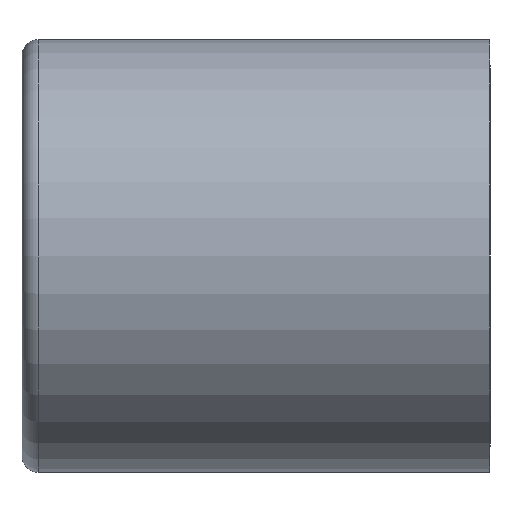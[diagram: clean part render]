
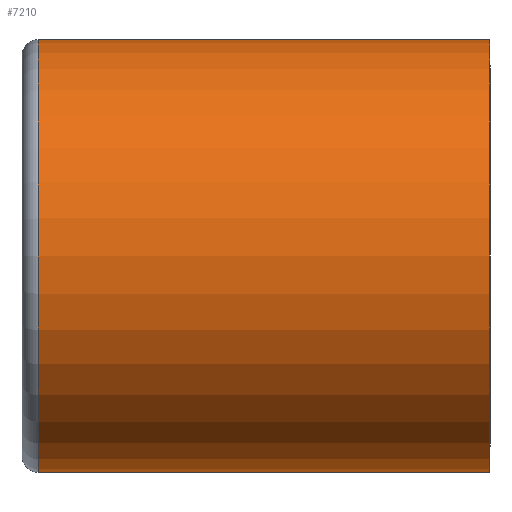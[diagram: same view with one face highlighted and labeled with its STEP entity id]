
A CAD part, front view. The second image highlights one B-rep face of the part: STEP entity #7210.
In plain terms, the highlighted cylindrical face has radius 18.5 mm (diameter 37 mm), a partial arc.
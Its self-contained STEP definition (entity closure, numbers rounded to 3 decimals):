
#130 = DIRECTION ( 'NONE',  ( 0., 0., 1. ) ) ;
#140 = CARTESIAN_POINT ( 'NONE',  ( 0., 0., 0. ) ) ;
#153 = DIRECTION ( 'NONE',  ( -1., 0., 0. ) ) ;
#616 = CARTESIAN_POINT ( 'NONE',  ( 1.4, 0., 18.5 ) ) ;
#797 = CARTESIAN_POINT ( 'NONE',  ( 40., 0., 18.5 ) ) ;
#823 = CARTESIAN_POINT ( 'NONE',  ( 40., 0., -18.5 ) ) ;
#940 = CARTESIAN_POINT ( 'NONE',  ( 1.4, 0., -18.5 ) ) ;
#1493 = VERTEX_POINT ( 'NONE', #940 ) ;
#1801 = VERTEX_POINT ( 'NONE', #823 ) ;
#1821 = VERTEX_POINT ( 'NONE', #797 ) ;
#1948 = VERTEX_POINT ( 'NONE', #616 ) ;
#2259 = FACE_OUTER_BOUND ( 'NONE', #6765, .T. ) ;
#2320 = CYLINDRICAL_SURFACE ( 'NONE', #11030, 18.5 ) ;
#3813 = CARTESIAN_POINT ( 'NONE',  ( 0., 0., -18.5 ) ) ;
#3814 = DIRECTION ( 'NONE',  ( -1., 0., 0. ) ) ;
#4577 = CARTESIAN_POINT ( 'NONE',  ( 40., 0., 0. ) ) ;
#4579 = DIRECTION ( 'NONE',  ( -1., 0., 0. ) ) ;
#4580 = DIRECTION ( 'NONE',  ( 0., 0., 1. ) ) ;
#4990 = CARTESIAN_POINT ( 'NONE',  ( 1.4, 0., 0. ) ) ;
#4992 = DIRECTION ( 'NONE',  ( 1., 0., 0. ) ) ;
#4994 = DIRECTION ( 'NONE',  ( 0., 0., -1. ) ) ;
#5598 = AXIS2_PLACEMENT_3D ( 'NONE', #4990, #4992, #4994 ) ;
#5656 = AXIS2_PLACEMENT_3D ( 'NONE', #4577, #4579, #4580 ) ;
#6708 = ORIENTED_EDGE ( 'NONE', *, *, #11198, .T. ) ;
#6709 = ORIENTED_EDGE ( 'NONE', *, *, #11456, .T. ) ;
#6710 = ORIENTED_EDGE ( 'NONE', *, *, #11161, .T. ) ;
#6711 = ORIENTED_EDGE ( 'NONE', *, *, #11351, .F. ) ;
#6765 = EDGE_LOOP ( 'NONE', ( #6711, #6710, #6709, #6708 ) ) ;
#7210 = ADVANCED_FACE ( 'NONE', ( #2259 ), #2320, .T. ) ;
#8025 = LINE ( 'NONE', #9607, #8033 ) ;
#8033 = VECTOR ( 'NONE', #9606, 1000. ) ;
#8532 = CIRCLE ( 'NONE', #5656, 18.5 ) ;
#8574 = CIRCLE ( 'NONE', #5598, 18.5 ) ;
#8598 = LINE ( 'NONE', #3813, #8816 ) ;
#8816 = VECTOR ( 'NONE', #3814, 1000. ) ;
#9606 = DIRECTION ( 'NONE',  ( -1., 0., 0. ) ) ;
#9607 = CARTESIAN_POINT ( 'NONE',  ( 0., 0., 18.5 ) ) ;
#11030 = AXIS2_PLACEMENT_3D ( 'NONE', #140, #153, #130 ) ;
#11161 = EDGE_CURVE ( 'NONE', #1801, #1821, #8532, .T. ) ;
#11198 = EDGE_CURVE ( 'NONE', #1948, #1493, #8574, .T. ) ;
#11351 = EDGE_CURVE ( 'NONE', #1801, #1493, #8598, .T. ) ;
#11456 = EDGE_CURVE ( 'NONE', #1821, #1948, #8025, .T. ) ;
